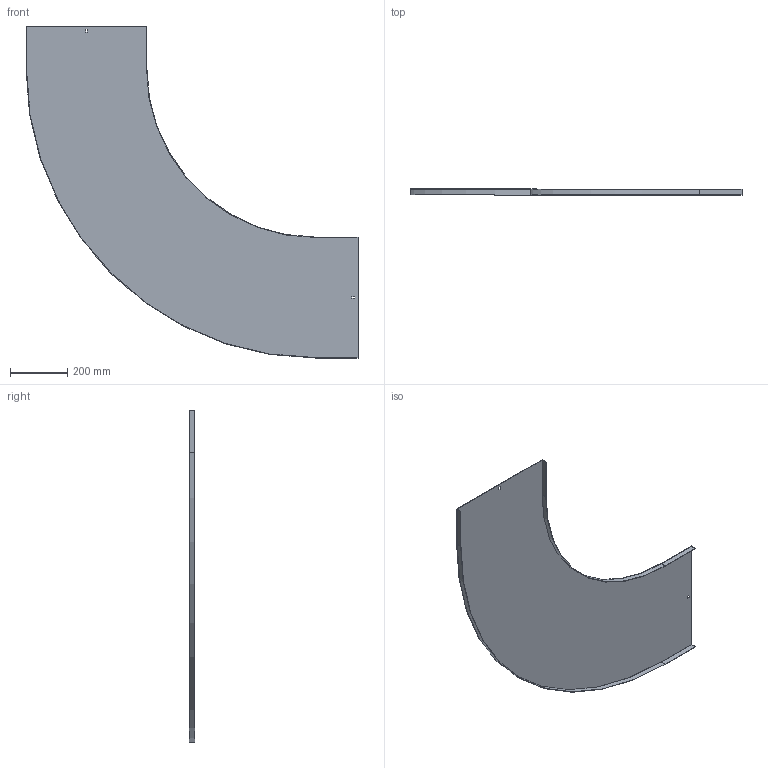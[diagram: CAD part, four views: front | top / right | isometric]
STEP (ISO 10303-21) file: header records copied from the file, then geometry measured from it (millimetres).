
FILE_DESCRIPTION (( 'STEP AP214' ), '1' );
FILE_NAME ('10N6P400.step', '2025-02-21T13:37:12', ( '' ), ( '' ), 'SwSTEP 2.0', 'SolidWorks 2023', '' );
FILE_SCHEMA (( 'AUTOMOTIVE_DESIGN' ));
Length unit declared in the file: millimetre
Products named in the file (1): 10N6P400
Bounding box: 1161.5 x 20 x 1161.5 mm (x, y, z)
Volume: 1073904.1 mm3; surface area: 1438015 mm2
Topology: 1 solids, 1 shells, 26 faces, 72 edges, 48 vertices
Faces by surface type: plane 22, cylinder 4
Entity records: 855 total; most frequent: CARTESIAN_POINT 147, ORIENTED_EDGE 144, DIRECTION 134, EDGE_CURVE 72, LINE 64, VECTOR 64, VERTEX_POINT 48, AXIS2_PLACEMENT_3D 35
